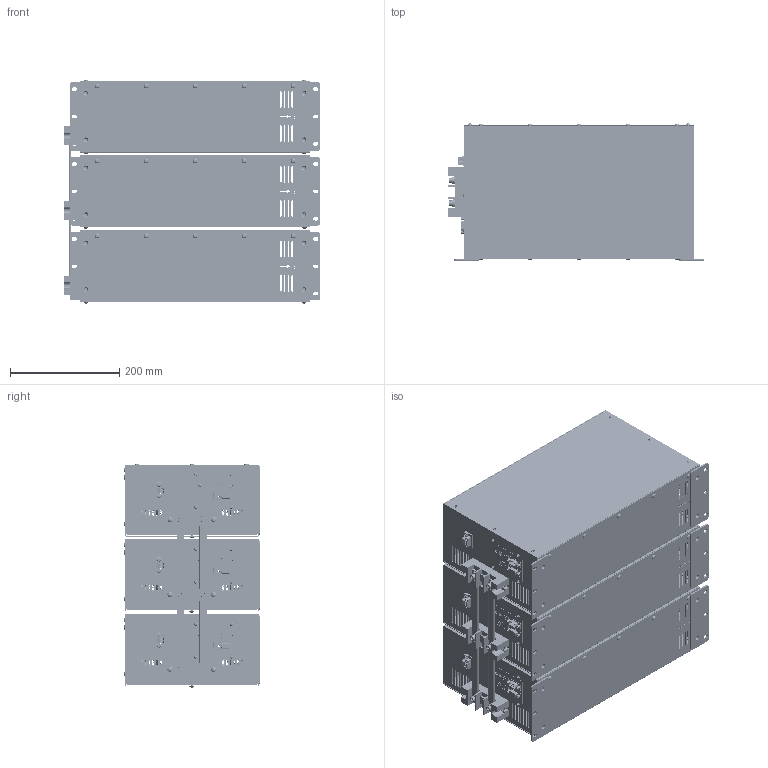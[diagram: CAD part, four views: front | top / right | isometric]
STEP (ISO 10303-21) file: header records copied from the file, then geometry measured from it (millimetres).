
FILE_DESCRIPTION(/* description */ (''),/* implementation_level */ '2;1');
FILE_NAME(/* name */ 'G:\016_배터리 버스바 도면\VX3COM-수직형-3P\[3D 도면]\$VX3COM BUSBAR ASS''Y(VERTICAL)_Shrinkwrap_1.stp',/* time_stamp */ '2024-07-09T16:36:56+09:00',/* author */ ('jjang'),/* organization */ (''),/* preprocessor_version */ 'ST-DEVELOPER v18.1',/* originating_system */ 'Autodesk Inventor 2021',/* authorisation */ '');
FILE_SCHEMA (('AUTOMOTIVE_DESIGN { 1 0 10303 214 3 1 1 }'));
Products named in the file (1): $VX3COM BUSBAR ASS'Y(VERTICAL)_Shrinkwrap_1
Bounding box: 468 x 250.54 x 408.59 mm (x, y, z)
Volume: 2108203.7 mm3; surface area: 2661325.3 mm2
Topology: 21 solids, 21 shells, 13836 faces, 41192 edges, 28539 vertices
Faces by surface type: plane 7674, cylinder 3546, bspline 2028, torus 384, cone 123, sphere 81
Full cylindrical faces by diameter (mm): 0.609 x3, 0.61 x81, 0.635 x27, 0.9 x18, 1.397 x27, 1.4 x3, 2.286 x27, 2.8 x24, 2.957 x12, 3 x6, 3.048 x12, 3.2 x12, 3.6 x30, 3.783 x6, 3.8 x6, 3.9 x6, 4 x69, 4.3 x36, 4.5 x30, 5 x51, 5.3 x60, 5.4 x6, 5.429 x6, 5.6 x12, 5.9 x6, 6 x6, 6.082 x3, 6.2 x9, 7 x6, 8 x3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
Entity records: 559687 total; most frequent: CARTESIAN_POINT 183054, ORIENTED_EDGE 82270, DIRECTION 68157, EDGE_CURVE 41135, VERTEX_POINT 28539, LINE 22989, VECTOR 22989, AXIS2_PLACEMENT_3D 22584
